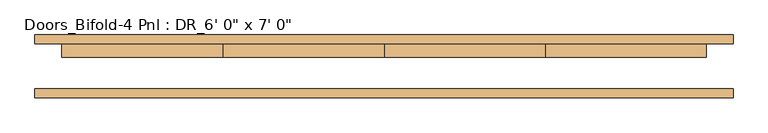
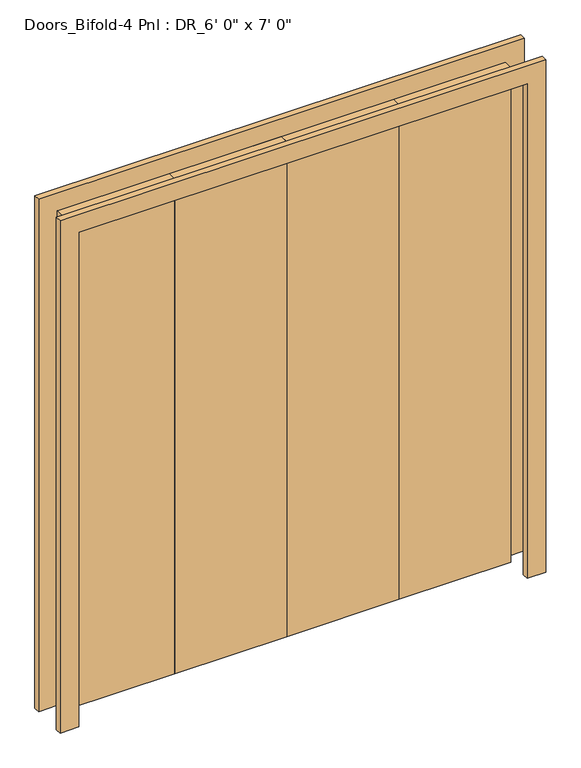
"""IFC4 building model written with IfcOpenShell, lengths in millimetres: door geometry."""

from ifc_helpers import new_model, si_unit, frame, origin, origin_with_axes, place, context, project, spatial, polyline, outline, extrude, source, transform, mapped, element, save


def door_12a84304(model_context):
    return source(origin(), model_context, "Body", "SweptSolid", [
        extrude(outline(polyline([(0.0, 990.6), (2209.8, 990.6), (2209.8, -990.6), (0.0, -990.6), (0.0, -914.4), (2133.6, -914.4), (2133.6, 914.4), (0.0, 914.4), (0.0, 990.6)])), frame((0.0, -88.9, 0.0), z_axis=(0.0, 1.0, 0.0), x_axis=(0.0, 0.0, 1.0)), (0.0, 0.0, 1.0), 25.4),
        extrude(outline(polyline([(0.0, 990.6), (2209.8, 990.6), (2209.8, -990.6), (0.0, -990.6), (0.0, -914.4), (2133.6, -914.4), (2133.6, 914.4), (0.0, 914.4), (0.0, 990.6)])), frame((0.0, 63.5, 0.0), z_axis=(0.0, 1.0, 0.0), x_axis=(0.0, 0.0, 1.0)), (0.0, 0.0, 1.0), 25.4),
        extrude(outline(polyline([(-914.4, 63.5), (-457.2, 63.5), (-457.2, 25.4), (-914.4, 25.4), (-914.4, 63.5)])), origin_with_axes(), (0.0, 0.0, 1.0), 2133.6),
        extrude(outline(polyline([(-457.2, 63.5), (0.0, 63.5), (0.0, 25.4), (-457.2, 25.4), (-457.2, 63.5)])), origin_with_axes(), (0.0, 0.0, 1.0), 2133.6),
        extrude(outline(polyline([(0.0, 63.5), (457.2, 63.5), (457.2, 25.4), (0.0, 25.4), (0.0, 63.5)])), origin_with_axes(), (0.0, 0.0, 1.0), 2133.6),
        extrude(outline(polyline([(457.2, 63.5), (914.4, 63.5), (914.4, 25.4), (457.2, 25.4), (457.2, 63.5)])), origin_with_axes(), (0.0, 0.0, 1.0), 2133.6),
    ])


if __name__ == "__main__":
    model = new_model("IFC4")
    model_context = context("Model", 3, world=origin())
    ifc_project = project(units=[si_unit("LENGTHUNIT", "METRE", prefix="MILLI")], contexts=[model_context])
    site = spatial("IfcSite", under=ifc_project)
    building = spatial("IfcBuilding", under=site)
    placement = place(None, origin())
    door_shape = door_12a84304(model_context)
    element("IfcDoor", 1, ObjectType="Doors_Bifold-4 Pnl : DR_6' 0\" x 7' 0\"", at=placement, inside=building, context=model_context, shape_type="MappedRepresentation", body=[
        mapped(door_shape, transform((0.0, 0.0, 0.0), x_axis=(1.0, 0.0, 0.0), y_axis=(0.0, 1.0, 0.0), z_axis=(0.0, 0.0, 1.0))),
    ])
    save(model, "model.ifc")
